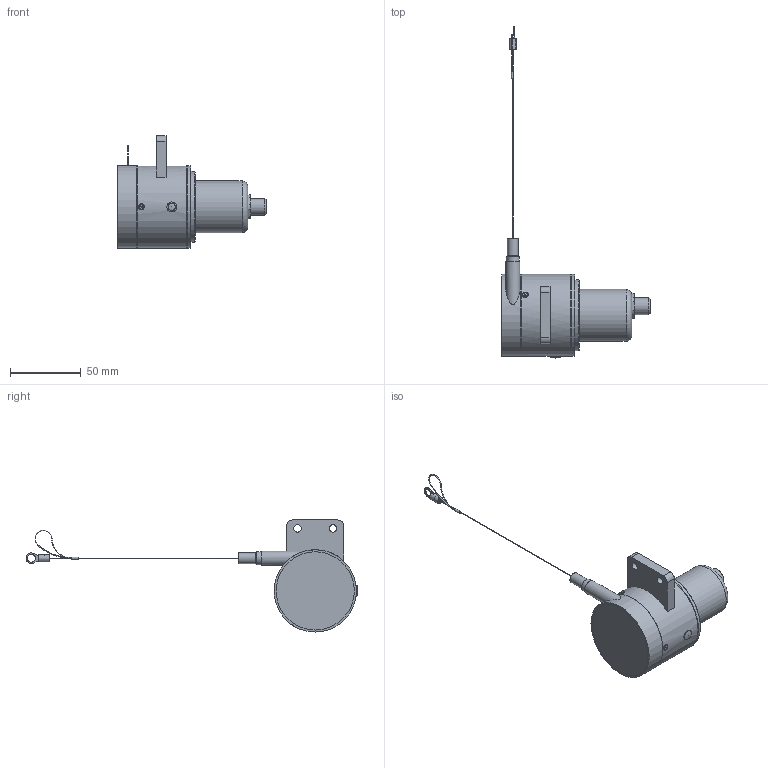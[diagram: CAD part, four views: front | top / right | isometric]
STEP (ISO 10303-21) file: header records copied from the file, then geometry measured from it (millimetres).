
FILE_DESCRIPTION( ( 'STEP AP203' ), '1' );
FILE_NAME( 'p:/temp/worker_35/temp/exporttempdir_2188_383_nOhnW/format_6/RMS001.stp', '2020-06-16T07:34:05', ( 'License CC BY-ND 4.0' ), ( 'CADENAS' ), ' ', 'PARTsolutions', ' ' );
FILE_SCHEMA( ( 'CONFIG_CONTROL_DESIGN' ) );
Length unit declared in the file: millimetre
Products named in the file (1): _RMS001
Bounding box: 104.5 x 233.84 x 79 mm (x, y, z)
Volume: 189130.6 mm3; surface area: 24841.5 mm2
Topology: 1 solids, 1 shells, 181 faces, 426 edges, 277 vertices
Faces by surface type: plane 98, cylinder 59, cone 18, torus 5, sphere 1
Full cylindrical faces by diameter (mm): 0.5 x4, 1.6 x1, 3.5 x1, 3.8 x3, 4 x3, 4.1 x1, 4.3 x3, 5 x2, 5.3 x2, 5.5 x1, 7 x1, 7.5 x1, 9 x1, 10 x1, 12 x1, 36.5 x1, 50 x1, 55.1 x1, 58 x3
Entity records: 5342 total; most frequent: CARTESIAN_POINT 1270, DIRECTION 850, ORIENTED_EDGE 744, EDGE_CURVE 372, AXIS2_PLACEMENT_3D 329, VERTEX_POINT 269, EDGE_LOOP 265, FACE_OUTER_BOUND 218
